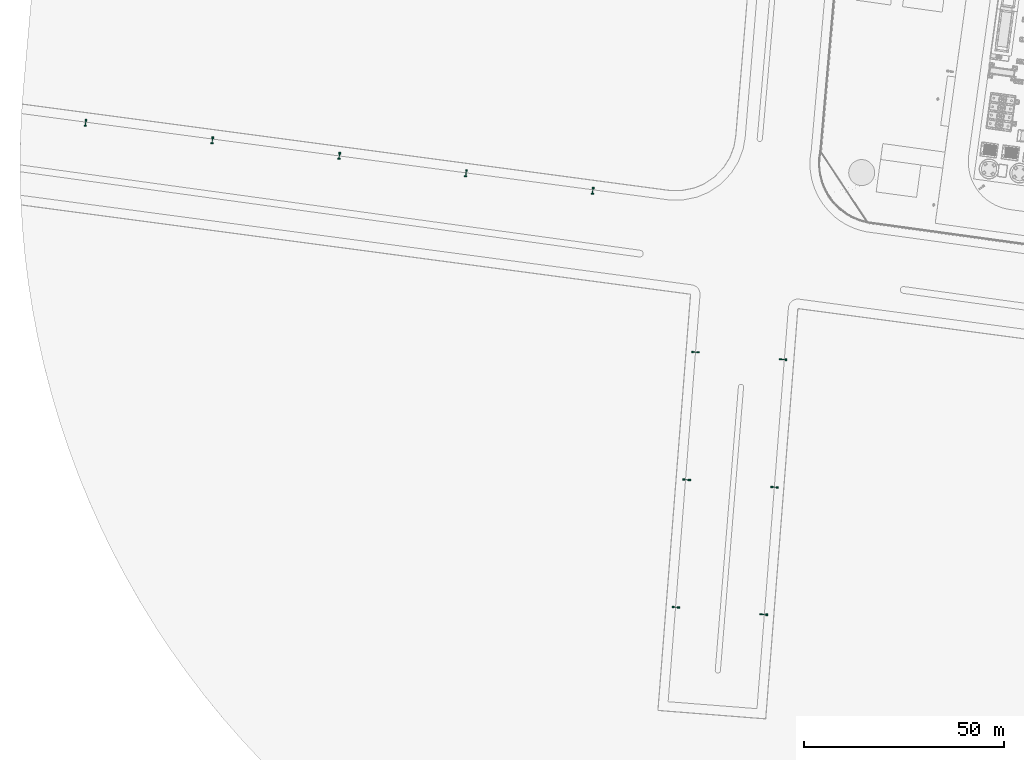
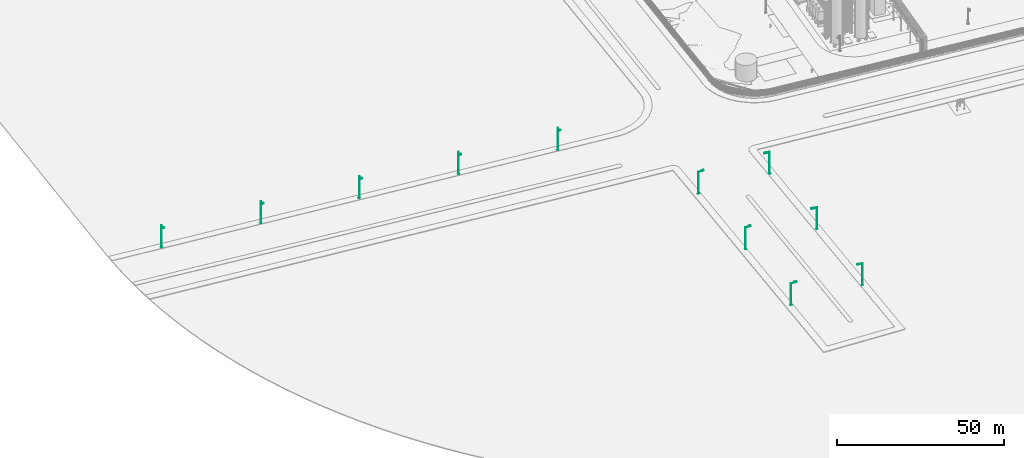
# Not in any storey, part 26 of 75: 11 light fixtures.
"""IFC4 model written with IfcOpenShell, lengths in metres."""

from ifc_helpers import new_model, si_unit, direction, origin, origin_with_axes, place, context, subcontext, project, spatial, triangles, element, save


model = new_model("IFC4")

# Units and contexts
model_context = context("Model", 3, precision=1e-05, world=origin_with_axes(), true_north=direction((0.0, 1.0)))
body_context = subcontext(model_context, "Body", "Model", "MODEL_VIEW")
ifc_project = project(units=[si_unit("AREAUNIT", "SQUARE_METRE"), si_unit("VOLUMEUNIT", "CUBIC_METRE"), si_unit("LENGTHUNIT", "METRE")], contexts=[model_context])

# Site
site_placement = place(None, origin_with_axes())
site = spatial("IfcSite", under=ifc_project, at=site_placement, Name="Parcela industrial Jinhong")

# Light fixtures
light_fixture_1_placement = place(None, origin())
element("IfcLightFixture", 1, at=light_fixture_1_placement, inside=site, Name="Luminaria del entorno · ilustrativa 1", ObjectType="Luminaria del entorno · ilustrativa 1", PredefinedType="USERDEFINED", context=body_context, shape_type="Tessellation", body=[
    triangles([(-19.504452, -79.282823, 0.118432), (-19.504452, -79.282823, 0.318432), (-19.504452, -78.832823, 0.118432), (-19.504452, -78.832823, 0.318432), (-19.054452, -79.282823, 0.118432), (-19.054452, -79.282823, 0.318432), (-19.054452, -78.832823, 0.118432), (-19.054452, -78.832823, 0.318432)], [[2, 4, 1], [5, 2, 1], [1, 4, 3], [3, 5, 1], [2, 8, 4], [6, 2, 5], [6, 8, 2], [4, 8, 3], [7, 5, 3], [3, 8, 7], [7, 6, 5], [8, 6, 7]], closed=True),
    triangles([(-19.339452, -79.117823, 0.318432), (-19.339452, -79.117823, 8.118432), (-19.339452, -78.997823, 0.318432), (-19.339452, -78.997823, 8.118432), (-19.219452, -79.117823, 0.318432), (-19.219452, -79.117823, 8.118432), (-19.219452, -78.997823, 0.318432), (-19.219452, -78.997823, 8.118432)], [[2, 4, 1], [5, 2, 1], [1, 4, 3], [3, 5, 1], [2, 8, 4], [6, 2, 5], [6, 8, 2], [4, 8, 3], [7, 5, 3], [3, 8, 7], [7, 6, 5], [8, 6, 7]], closed=True),
    triangles([(-19.287044, -79.097505, 7.978838), (-20.682127, -78.980271, 8.128838), (-19.280383, -79.017784, 7.978481), (-20.675466, -78.90055, 8.128481), (-19.278521, -79.097862, 8.058382), (-20.673604, -78.980628, 8.208382), (-19.27186, -79.01814, 8.058025), (-20.666943, -78.900906, 8.208025)], [[2, 4, 1], [5, 2, 1], [1, 4, 3], [3, 5, 1], [2, 8, 4], [6, 2, 5], [6, 8, 2], [4, 8, 3], [7, 5, 3], [3, 8, 7], [7, 6, 5], [8, 6, 7]], closed=True),
    triangles([(-20.964535, -79.080589, 8.108432), (-20.964535, -79.080589, 8.228432), (-20.964535, -78.800589, 8.108432), (-20.964535, -78.800589, 8.228432), (-20.384535, -79.080589, 8.108432), (-20.384535, -79.080589, 8.228432), (-20.384535, -78.800589, 8.108432), (-20.384535, -78.800589, 8.228432)], [[2, 4, 1], [5, 2, 1], [1, 4, 3], [3, 5, 1], [2, 8, 4], [6, 2, 5], [6, 8, 2], [4, 8, 3], [7, 5, 3], [3, 8, 7], [7, 6, 5], [8, 6, 7]], closed=True),
])
light_fixture_2_placement = place(None, origin())
element("IfcLightFixture", 2, at=light_fixture_2_placement, inside=site, Name="Luminaria del entorno · ilustrativa 2", ObjectType="Luminaria del entorno · ilustrativa 2", PredefinedType="USERDEFINED", context=body_context, shape_type="Tessellation", body=[
    triangles([(-42.921915, -77.314969, -0.142619), (-42.921915, -77.314969, 0.057381), (-42.921915, -76.864969, -0.142619), (-42.921915, -76.864969, 0.057381), (-42.471915, -77.314969, -0.142619), (-42.471915, -77.314969, 0.057381), (-42.471915, -76.864969, -0.142619), (-42.471915, -76.864969, 0.057381)], [[2, 4, 1], [5, 2, 1], [1, 4, 3], [3, 5, 1], [2, 8, 4], [6, 2, 5], [6, 8, 2], [4, 8, 3], [7, 5, 3], [3, 8, 7], [7, 6, 5], [8, 6, 7]], closed=True),
    triangles([(-42.756915, -77.149969, 0.057381), (-42.756915, -77.149969, 7.857381), (-42.756915, -77.029969, 0.057381), (-42.756915, -77.029969, 7.857381), (-42.636915, -77.149969, 0.057381), (-42.636915, -77.149969, 7.857381), (-42.636915, -77.029969, 0.057381), (-42.636915, -77.029969, 7.857381)], [[2, 4, 1], [5, 2, 1], [1, 4, 3], [3, 5, 1], [2, 8, 4], [6, 2, 5], [6, 8, 2], [4, 8, 3], [7, 5, 3], [3, 8, 7], [7, 6, 5], [8, 6, 7]], closed=True),
    triangles([(-42.704506, -77.129651, 7.796975), (-41.309423, -77.246885, 7.946975), (-42.697845, -77.04993, 7.797332), (-41.302763, -77.167164, 7.947332), (-42.695984, -77.130008, 7.717431), (-41.300901, -77.247241, 7.867431), (-42.689323, -77.050286, 7.717788), (-41.29424, -77.16752, 7.867788)], [[2, 4, 1], [5, 2, 1], [1, 4, 3], [3, 5, 1], [2, 8, 4], [6, 2, 5], [6, 8, 2], [4, 8, 3], [7, 5, 3], [3, 8, 7], [7, 6, 5], [8, 6, 7]], closed=True),
    triangles([(-41.591832, -77.347203, 7.847381), (-41.591832, -77.347203, 7.967381), (-41.591832, -77.067203, 7.847381), (-41.591832, -77.067203, 7.967381), (-41.011832, -77.347203, 7.847381), (-41.011832, -77.347203, 7.967381), (-41.011832, -77.067203, 7.847381), (-41.011832, -77.067203, 7.967381)], [[2, 4, 1], [5, 2, 1], [1, 4, 3], [3, 5, 1], [2, 8, 4], [6, 2, 5], [6, 8, 2], [4, 8, 3], [7, 5, 3], [3, 8, 7], [7, 6, 5], [8, 6, 7]], closed=True),
])
light_fixture_3_placement = place(None, origin())
element("IfcLightFixture", 3, at=light_fixture_3_placement, inside=site, Name="Luminaria del entorno · ilustrativa 3", ObjectType="Luminaria del entorno · ilustrativa 3", PredefinedType="USERDEFINED", context=body_context, shape_type="Tessellation", body=[
    triangles([(-16.824821, -47.395214, 0.233988), (-16.824821, -47.395214, 0.433988), (-16.824821, -46.945214, 0.233988), (-16.824821, -46.945214, 0.433988), (-16.374821, -47.395214, 0.233988), (-16.374821, -47.395214, 0.433988), (-16.374821, -46.945214, 0.233988), (-16.374821, -46.945214, 0.433988)], [[2, 4, 1], [5, 2, 1], [1, 4, 3], [3, 5, 1], [2, 8, 4], [6, 2, 5], [6, 8, 2], [4, 8, 3], [7, 5, 3], [3, 8, 7], [7, 6, 5], [8, 6, 7]], closed=True),
    triangles([(-16.659821, -47.230214, 0.433988), (-16.659821, -47.230214, 8.233988), (-16.659821, -47.110214, 0.433988), (-16.659821, -47.110214, 8.233988), (-16.539821, -47.230214, 0.433988), (-16.539821, -47.230214, 8.233988), (-16.539821, -47.110214, 0.433988), (-16.539821, -47.110214, 8.233988)], [[2, 4, 1], [5, 2, 1], [1, 4, 3], [3, 5, 1], [2, 8, 4], [6, 2, 5], [6, 8, 2], [4, 8, 3], [7, 5, 3], [3, 8, 7], [7, 6, 5], [8, 6, 7]], closed=True),
    triangles([(-16.607413, -47.209897, 8.094395), (-18.002496, -47.092663, 8.244395), (-16.600752, -47.130175, 8.094038), (-17.995835, -47.012941, 8.244038), (-16.59889, -47.210253, 8.173939), (-17.993973, -47.093019, 8.323939), (-16.592229, -47.130532, 8.173582), (-17.987312, -47.013298, 8.323582)], [[2, 4, 1], [5, 2, 1], [1, 4, 3], [3, 5, 1], [2, 8, 4], [6, 2, 5], [6, 8, 2], [4, 8, 3], [7, 5, 3], [3, 8, 7], [7, 6, 5], [8, 6, 7]], closed=True),
    triangles([(-18.284904, -47.19298, 8.223988), (-18.284904, -47.19298, 8.343988), (-18.284904, -46.91298, 8.223988), (-18.284904, -46.91298, 8.343988), (-17.704904, -47.19298, 8.223988), (-17.704904, -47.19298, 8.343988), (-17.704904, -46.91298, 8.223988), (-17.704904, -46.91298, 8.343988)], [[2, 4, 1], [5, 2, 1], [1, 4, 3], [3, 5, 1], [2, 8, 4], [6, 2, 5], [6, 8, 2], [4, 8, 3], [7, 5, 3], [3, 8, 7], [7, 6, 5], [8, 6, 7]], closed=True),
])
light_fixture_4_placement = place(None, origin())
element("IfcLightFixture", 4, at=light_fixture_4_placement, inside=site, Name="Luminaria del entorno · ilustrativa 4", ObjectType="Luminaria del entorno · ilustrativa 4", PredefinedType="USERDEFINED", context=body_context, shape_type="Tessellation", body=[
    triangles([(-40.242284, -45.42736, -0.027062), (-40.242284, -45.42736, 0.172938), (-40.242284, -44.97736, -0.027062), (-40.242284, -44.97736, 0.172938), (-39.792284, -45.42736, -0.027062), (-39.792284, -45.42736, 0.172938), (-39.792284, -44.97736, -0.027062), (-39.792284, -44.97736, 0.172938)], [[2, 4, 1], [5, 2, 1], [1, 4, 3], [3, 5, 1], [2, 8, 4], [6, 2, 5], [6, 8, 2], [4, 8, 3], [7, 5, 3], [3, 8, 7], [7, 6, 5], [8, 6, 7]], closed=True),
    triangles([(-40.077284, -45.26236, 0.172938), (-40.077284, -45.26236, 7.972938), (-40.077284, -45.14236, 0.172938), (-40.077284, -45.14236, 7.972938), (-39.957284, -45.26236, 0.172938), (-39.957284, -45.26236, 7.972938), (-39.957284, -45.14236, 0.172938), (-39.957284, -45.14236, 7.972938)], [[2, 4, 1], [5, 2, 1], [1, 4, 3], [3, 5, 1], [2, 8, 4], [6, 2, 5], [6, 8, 2], [4, 8, 3], [7, 5, 3], [3, 8, 7], [7, 6, 5], [8, 6, 7]], closed=True),
    triangles([(-40.024875, -45.242043, 7.912532), (-38.629793, -45.359276, 8.062532), (-40.018214, -45.162321, 7.912888), (-38.623132, -45.279555, 8.062888), (-40.016353, -45.242399, 7.832988), (-38.62127, -45.359633, 7.982988), (-40.009692, -45.162678, 7.833345), (-38.614609, -45.279912, 7.983345)], [[2, 4, 1], [5, 2, 1], [1, 4, 3], [3, 5, 1], [2, 8, 4], [6, 2, 5], [6, 8, 2], [4, 8, 3], [7, 5, 3], [3, 8, 7], [7, 6, 5], [8, 6, 7]], closed=True),
    triangles([(-38.912201, -45.459594, 7.962938), (-38.912201, -45.459594, 8.082938), (-38.912201, -45.179594, 7.962938), (-38.912201, -45.179594, 8.082938), (-38.332201, -45.459594, 7.962938), (-38.332201, -45.459594, 8.082938), (-38.332201, -45.179594, 7.962938), (-38.332201, -45.179594, 8.082938)], [[2, 4, 1], [5, 2, 1], [1, 4, 3], [3, 5, 1], [2, 8, 4], [6, 2, 5], [6, 8, 2], [4, 8, 3], [7, 5, 3], [3, 8, 7], [7, 6, 5], [8, 6, 7]], closed=True),
])
light_fixture_5_placement = place(None, origin())
element("IfcLightFixture", 5, at=light_fixture_5_placement, inside=site, Name="Luminaria del entorno · ilustrativa 5", ObjectType="Luminaria del entorno · ilustrativa 5", PredefinedType="USERDEFINED", context=body_context, shape_type="Tessellation", body=[
    triangles([(-14.643434, -15.465736, 0.343991), (-14.643434, -15.465736, 0.543991), (-14.643434, -15.015736, 0.343991), (-14.643434, -15.015736, 0.543991), (-14.193434, -15.465736, 0.343991), (-14.193434, -15.465736, 0.543991), (-14.193434, -15.015736, 0.343991), (-14.193434, -15.015736, 0.543991)], [[2, 4, 1], [5, 2, 1], [1, 4, 3], [3, 5, 1], [2, 8, 4], [6, 2, 5], [6, 8, 2], [4, 8, 3], [7, 5, 3], [3, 8, 7], [7, 6, 5], [8, 6, 7]], closed=True),
    triangles([(-14.478434, -15.300736, 0.543991), (-14.478434, -15.300736, 8.343991), (-14.478434, -15.180736, 0.543991), (-14.478434, -15.180736, 8.343991), (-14.358434, -15.300736, 0.543991), (-14.358434, -15.300736, 8.343991), (-14.358434, -15.180736, 0.543991), (-14.358434, -15.180736, 8.343991)], [[2, 4, 1], [5, 2, 1], [1, 4, 3], [3, 5, 1], [2, 8, 4], [6, 2, 5], [6, 8, 2], [4, 8, 3], [7, 5, 3], [3, 8, 7], [7, 6, 5], [8, 6, 7]], closed=True),
    triangles([(-14.426026, -15.280419, 8.204397), (-15.821109, -15.163185, 8.354397), (-14.419365, -15.200697, 8.204041), (-15.814448, -15.083464, 8.354041), (-14.417503, -15.280775, 8.283941), (-15.812586, -15.163541, 8.433941), (-14.410842, -15.201054, 8.283585), (-15.805925, -15.08382, 8.433585)], [[2, 4, 1], [5, 2, 1], [1, 4, 3], [3, 5, 1], [2, 8, 4], [6, 2, 5], [6, 8, 2], [4, 8, 3], [7, 5, 3], [3, 8, 7], [7, 6, 5], [8, 6, 7]], closed=True),
    triangles([(-16.103517, -15.263503, 8.333991), (-16.103517, -15.263503, 8.453991), (-16.103517, -14.983503, 8.333991), (-16.103517, -14.983503, 8.453991), (-15.523517, -15.263503, 8.333991), (-15.523517, -15.263503, 8.453991), (-15.523517, -14.983503, 8.333991), (-15.523517, -14.983503, 8.453991)], [[2, 4, 1], [5, 2, 1], [1, 4, 3], [3, 5, 1], [2, 8, 4], [6, 2, 5], [6, 8, 2], [4, 8, 3], [7, 5, 3], [3, 8, 7], [7, 6, 5], [8, 6, 7]], closed=True),
])
light_fixture_6_placement = place(None, origin())
element("IfcLightFixture", 6, at=light_fixture_6_placement, inside=site, Name="Luminaria del entorno · ilustrativa 6", ObjectType="Luminaria del entorno · ilustrativa 6", PredefinedType="USERDEFINED", context=body_context, shape_type="Tessellation", body=[
    triangles([(-38.060897, -13.497882, 0.082941), (-38.060897, -13.497882, 0.282941), (-38.060897, -13.047882, 0.082941), (-38.060897, -13.047882, 0.282941), (-37.610897, -13.497882, 0.082941), (-37.610897, -13.497882, 0.282941), (-37.610897, -13.047882, 0.082941), (-37.610897, -13.047882, 0.282941)], [[2, 4, 1], [5, 2, 1], [1, 4, 3], [3, 5, 1], [2, 8, 4], [6, 2, 5], [6, 8, 2], [4, 8, 3], [7, 5, 3], [3, 8, 7], [7, 6, 5], [8, 6, 7]], closed=True),
    triangles([(-37.895897, -13.332882, 0.282941), (-37.895897, -13.332882, 8.082941), (-37.895897, -13.212882, 0.282941), (-37.895897, -13.212882, 8.082941), (-37.775897, -13.332882, 0.282941), (-37.775897, -13.332882, 8.082941), (-37.775897, -13.212882, 0.282941), (-37.775897, -13.212882, 8.082941)], [[2, 4, 1], [5, 2, 1], [1, 4, 3], [3, 5, 1], [2, 8, 4], [6, 2, 5], [6, 8, 2], [4, 8, 3], [7, 5, 3], [3, 8, 7], [7, 6, 5], [8, 6, 7]], closed=True),
    triangles([(-37.843488, -13.312565, 8.022535), (-36.448405, -13.429799, 8.172535), (-37.836827, -13.232843, 8.022891), (-36.441744, -13.350077, 8.172891), (-37.834966, -13.312921, 7.942991), (-36.439883, -13.430155, 8.092991), (-37.828305, -13.2332, 7.943347), (-36.433222, -13.350434, 8.093347)], [[2, 4, 1], [5, 2, 1], [1, 4, 3], [3, 5, 1], [2, 8, 4], [6, 2, 5], [6, 8, 2], [4, 8, 3], [7, 5, 3], [3, 8, 7], [7, 6, 5], [8, 6, 7]], closed=True),
    triangles([(-36.730814, -13.530116, 8.072941), (-36.730814, -13.530116, 8.192941), (-36.730814, -13.250116, 8.072941), (-36.730814, -13.250116, 8.192941), (-36.150814, -13.530116, 8.072941), (-36.150814, -13.530116, 8.192941), (-36.150814, -13.250116, 8.072941), (-36.150814, -13.250116, 8.192941)], [[2, 4, 1], [5, 2, 1], [1, 4, 3], [3, 5, 1], [2, 8, 4], [6, 2, 5], [6, 8, 2], [4, 8, 3], [7, 5, 3], [3, 8, 7], [7, 6, 5], [8, 6, 7]], closed=True),
])
light_fixture_7_placement = place(None, origin())
element("IfcLightFixture", 7, at=light_fixture_7_placement, inside=site, Name="Luminaria del entorno · ilustrativa 10", ObjectType="Luminaria del entorno · ilustrativa 10", PredefinedType="USERDEFINED", context=body_context, shape_type="Tessellation", body=[
    triangles([(-189.798282, 44.488614, -1.487877), (-189.798282, 44.488614, -1.287877), (-189.798282, 44.938614, -1.487877), (-189.798282, 44.938614, -1.287877), (-189.348282, 44.488614, -1.487877), (-189.348282, 44.488614, -1.287877), (-189.348282, 44.938614, -1.487877), (-189.348282, 44.938614, -1.287877)], [[2, 4, 1], [5, 2, 1], [1, 4, 3], [3, 5, 1], [2, 8, 4], [6, 2, 5], [6, 8, 2], [4, 8, 3], [7, 5, 3], [3, 8, 7], [7, 6, 5], [8, 6, 7]], closed=True),
    triangles([(-189.633282, 44.653614, -1.287877), (-189.633282, 44.653614, 6.512123), (-189.633282, 44.773614, -1.287877), (-189.633282, 44.773614, 6.512123), (-189.513282, 44.653614, -1.287877), (-189.513282, 44.653614, 6.512123), (-189.513282, 44.773614, -1.287877), (-189.513282, 44.773614, 6.512123)], [[2, 4, 1], [5, 2, 1], [1, 4, 3], [3, 5, 1], [2, 8, 4], [6, 2, 5], [6, 8, 2], [4, 8, 3], [7, 5, 3], [3, 8, 7], [7, 6, 5], [8, 6, 7]], closed=True),
    triangles([(-189.538143, 44.704091, 6.368826), (-189.729178, 43.317186, 6.518826), (-189.616943, 44.715744, 6.376218), (-189.807978, 43.328839, 6.526218), (-189.52962, 44.711483, 6.448027), (-189.720655, 43.324578, 6.598027), (-189.608421, 44.723136, 6.455419), (-189.799456, 43.336231, 6.605419)], [[2, 4, 1], [5, 2, 1], [1, 4, 3], [3, 5, 1], [2, 8, 4], [6, 2, 5], [6, 8, 2], [4, 8, 3], [7, 5, 3], [3, 8, 7], [7, 6, 5], [8, 6, 7]], closed=True),
    triangles([(-190.054317, 43.186709, 6.502123), (-190.054317, 43.186709, 6.622123), (-190.054317, 43.466709, 6.502123), (-190.054317, 43.466709, 6.622123), (-189.474317, 43.186709, 6.502123), (-189.474317, 43.186709, 6.622123), (-189.474317, 43.466709, 6.502123), (-189.474317, 43.466709, 6.622123)], [[2, 4, 1], [5, 2, 1], [1, 4, 3], [3, 5, 1], [2, 8, 4], [6, 2, 5], [6, 8, 2], [4, 8, 3], [7, 5, 3], [3, 8, 7], [7, 6, 5], [8, 6, 7]], closed=True),
])
light_fixture_8_placement = place(None, origin())
element("IfcLightFixture", 8, at=light_fixture_8_placement, inside=site, Name="Luminaria del entorno · ilustrativa 11", ObjectType="Luminaria del entorno · ilustrativa 11", PredefinedType="USERDEFINED", context=body_context, shape_type="Tessellation", body=[
    triangles([(-158.097595, 40.1221, -1.139031), (-158.097595, 40.1221, -0.939031), (-158.097595, 40.5721, -1.139031), (-158.097595, 40.5721, -0.939031), (-157.647595, 40.1221, -1.139031), (-157.647595, 40.1221, -0.939031), (-157.647595, 40.5721, -1.139031), (-157.647595, 40.5721, -0.939031)], [[2, 4, 1], [5, 2, 1], [1, 4, 3], [3, 5, 1], [2, 8, 4], [6, 2, 5], [6, 8, 2], [4, 8, 3], [7, 5, 3], [3, 8, 7], [7, 6, 5], [8, 6, 7]], closed=True),
    triangles([(-157.932595, 40.2871, -0.939031), (-157.932595, 40.2871, 6.860969), (-157.932595, 40.4071, -0.939031), (-157.932595, 40.4071, 6.860969), (-157.812595, 40.2871, -0.939031), (-157.812595, 40.2871, 6.860969), (-157.812595, 40.4071, -0.939031), (-157.812595, 40.4071, 6.860969)], [[2, 4, 1], [5, 2, 1], [1, 4, 3], [3, 5, 1], [2, 8, 4], [6, 2, 5], [6, 8, 2], [4, 8, 3], [7, 5, 3], [3, 8, 7], [7, 6, 5], [8, 6, 7]], closed=True),
    triangles([(-157.837456, 40.337577, 6.717672), (-158.028491, 38.950672, 6.867672), (-157.916256, 40.34923, 6.725064), (-158.107291, 38.962325, 6.875064), (-157.828933, 40.344969, 6.796873), (-158.019968, 38.958064, 6.946873), (-157.907734, 40.356622, 6.804265), (-158.098769, 38.969717, 6.954265)], [[2, 4, 1], [5, 2, 1], [1, 4, 3], [3, 5, 1], [2, 8, 4], [6, 2, 5], [6, 8, 2], [4, 8, 3], [7, 5, 3], [3, 8, 7], [7, 6, 5], [8, 6, 7]], closed=True),
    triangles([(-158.35363, 38.820195, 6.850969), (-158.35363, 38.820195, 6.970969), (-158.35363, 39.100195, 6.850969), (-158.35363, 39.100195, 6.970969), (-157.77363, 38.820195, 6.850969), (-157.77363, 38.820195, 6.970969), (-157.77363, 39.100195, 6.850969), (-157.77363, 39.100195, 6.970969)], [[2, 4, 1], [5, 2, 1], [1, 4, 3], [3, 5, 1], [2, 8, 4], [6, 2, 5], [6, 8, 2], [4, 8, 3], [7, 5, 3], [3, 8, 7], [7, 6, 5], [8, 6, 7]], closed=True),
])
light_fixture_9_placement = place(None, origin())
element("IfcLightFixture", 9, at=light_fixture_9_placement, inside=site, Name="Luminaria del entorno · ilustrativa 12", ObjectType="Luminaria del entorno · ilustrativa 12", PredefinedType="USERDEFINED", context=body_context, shape_type="Tessellation", body=[
    triangles([(-126.328681, 36.250909, -0.788088), (-126.328681, 36.250909, -0.588088), (-126.328681, 36.700909, -0.788088), (-126.328681, 36.700909, -0.588088), (-125.878681, 36.250909, -0.788088), (-125.878681, 36.250909, -0.588088), (-125.878681, 36.700909, -0.788088), (-125.878681, 36.700909, -0.588088)], [[2, 4, 1], [5, 2, 1], [1, 4, 3], [3, 5, 1], [2, 8, 4], [6, 2, 5], [6, 8, 2], [4, 8, 3], [7, 5, 3], [3, 8, 7], [7, 6, 5], [8, 6, 7]], closed=True),
    triangles([(-126.163681, 36.415909, -0.588088), (-126.163681, 36.415909, 7.211912), (-126.163681, 36.535909, -0.588088), (-126.163681, 36.535909, 7.211912), (-126.043681, 36.415909, -0.588088), (-126.043681, 36.415909, 7.211912), (-126.043681, 36.535909, -0.588088), (-126.043681, 36.535909, 7.211912)], [[2, 4, 1], [5, 2, 1], [1, 4, 3], [3, 5, 1], [2, 8, 4], [6, 2, 5], [6, 8, 2], [4, 8, 3], [7, 5, 3], [3, 8, 7], [7, 6, 5], [8, 6, 7]], closed=True),
    triangles([(-126.068542, 36.466386, 7.068616), (-126.259577, 35.079481, 7.218616), (-126.147343, 36.47804, 7.076008), (-126.338378, 35.091135, 7.226008), (-126.060019, 36.473778, 7.147816), (-126.251054, 35.086873, 7.297816), (-126.13882, 36.485432, 7.155208), (-126.329855, 35.098527, 7.305208)], [[2, 4, 1], [5, 2, 1], [1, 4, 3], [3, 5, 1], [2, 8, 4], [6, 2, 5], [6, 8, 2], [4, 8, 3], [7, 5, 3], [3, 8, 7], [7, 6, 5], [8, 6, 7]], closed=True),
    triangles([(-126.584716, 34.949004, 7.201912), (-126.584716, 34.949004, 7.321912), (-126.584716, 35.229004, 7.201912), (-126.584716, 35.229004, 7.321912), (-126.004716, 34.949004, 7.201912), (-126.004716, 34.949004, 7.321912), (-126.004716, 35.229004, 7.201912), (-126.004716, 35.229004, 7.321912)], [[2, 4, 1], [5, 2, 1], [1, 4, 3], [3, 5, 1], [2, 8, 4], [6, 2, 5], [6, 8, 2], [4, 8, 3], [7, 5, 3], [3, 8, 7], [7, 6, 5], [8, 6, 7]], closed=True),
])
light_fixture_10_placement = place(None, origin())
element("IfcLightFixture", 10, at=light_fixture_10_placement, inside=site, Name="Luminaria del entorno · ilustrativa 13", ObjectType="Luminaria del entorno · ilustrativa 13", PredefinedType="USERDEFINED", context=body_context, shape_type="Tessellation", body=[
    triangles([(-94.627994, 31.884395, -0.439242), (-94.627994, 31.884395, -0.239242), (-94.627994, 32.334395, -0.439242), (-94.627994, 32.334395, -0.239242), (-94.177994, 31.884395, -0.439242), (-94.177994, 31.884395, -0.239242), (-94.177994, 32.334395, -0.439242), (-94.177994, 32.334395, -0.239242)], [[2, 4, 1], [5, 2, 1], [1, 4, 3], [3, 5, 1], [2, 8, 4], [6, 2, 5], [6, 8, 2], [4, 8, 3], [7, 5, 3], [3, 8, 7], [7, 6, 5], [8, 6, 7]], closed=True),
    triangles([(-94.462994, 32.049395, -0.239242), (-94.462994, 32.049395, 7.560758), (-94.462994, 32.169395, -0.239242), (-94.462994, 32.169395, 7.560758), (-94.342994, 32.049395, -0.239242), (-94.342994, 32.049395, 7.560758), (-94.342994, 32.169395, -0.239242), (-94.342994, 32.169395, 7.560758)], [[2, 4, 1], [5, 2, 1], [1, 4, 3], [3, 5, 1], [2, 8, 4], [6, 2, 5], [6, 8, 2], [4, 8, 3], [7, 5, 3], [3, 8, 7], [7, 6, 5], [8, 6, 7]], closed=True),
    triangles([(-94.367855, 32.099872, 7.417461), (-94.55889, 30.712967, 7.567461), (-94.446656, 32.111526, 7.424853), (-94.637691, 30.724621, 7.574853), (-94.359332, 32.107264, 7.496662), (-94.550367, 30.720359, 7.646662), (-94.438133, 32.118918, 7.504054), (-94.629168, 30.732013, 7.654054)], [[2, 4, 1], [5, 2, 1], [1, 4, 3], [3, 5, 1], [2, 8, 4], [6, 2, 5], [6, 8, 2], [4, 8, 3], [7, 5, 3], [3, 8, 7], [7, 6, 5], [8, 6, 7]], closed=True),
    triangles([(-94.884029, 30.58249, 7.550758), (-94.884029, 30.58249, 7.670758), (-94.884029, 30.86249, 7.550758), (-94.884029, 30.86249, 7.670758), (-94.304029, 30.58249, 7.550758), (-94.304029, 30.58249, 7.670758), (-94.304029, 30.86249, 7.550758), (-94.304029, 30.86249, 7.670758)], [[2, 4, 1], [5, 2, 1], [1, 4, 3], [3, 5, 1], [2, 8, 4], [6, 2, 5], [6, 8, 2], [4, 8, 3], [7, 5, 3], [3, 8, 7], [7, 6, 5], [8, 6, 7]], closed=True),
])
light_fixture_11_placement = place(None, origin())
element("IfcLightFixture", 11, at=light_fixture_11_placement, inside=site, Name="Luminaria del entorno · ilustrativa 14", ObjectType="Luminaria del entorno · ilustrativa 14", PredefinedType="USERDEFINED", context=body_context, shape_type="Tessellation", body=[
    triangles([(-62.927307, 27.517881, -0.090397), (-62.927307, 27.517881, 0.109603), (-62.927307, 27.967881, -0.090397), (-62.927307, 27.967881, 0.109603), (-62.477307, 27.517881, -0.090397), (-62.477307, 27.517881, 0.109603), (-62.477307, 27.967881, -0.090397), (-62.477307, 27.967881, 0.109603)], [[2, 4, 1], [5, 2, 1], [1, 4, 3], [3, 5, 1], [2, 8, 4], [6, 2, 5], [6, 8, 2], [4, 8, 3], [7, 5, 3], [3, 8, 7], [7, 6, 5], [8, 6, 7]], closed=True),
    triangles([(-62.762307, 27.682881, 0.109603), (-62.762307, 27.682881, 7.909603), (-62.762307, 27.802881, 0.109603), (-62.762307, 27.802881, 7.909603), (-62.642307, 27.682881, 0.109603), (-62.642307, 27.682881, 7.909603), (-62.642307, 27.802881, 0.109603), (-62.642307, 27.802881, 7.909603)], [[2, 4, 1], [5, 2, 1], [1, 4, 3], [3, 5, 1], [2, 8, 4], [6, 2, 5], [6, 8, 2], [4, 8, 3], [7, 5, 3], [3, 8, 7], [7, 6, 5], [8, 6, 7]], closed=True),
    triangles([(-62.667168, 27.733358, 7.766307), (-62.858203, 26.346453, 7.916307), (-62.745969, 27.745012, 7.773699), (-62.937004, 26.358107, 7.923699), (-62.658645, 27.74075, 7.845508), (-62.84968, 26.353845, 7.995508), (-62.737446, 27.752404, 7.8529), (-62.928481, 26.365499, 8.0029)], [[2, 4, 1], [5, 2, 1], [1, 4, 3], [3, 5, 1], [2, 8, 4], [6, 2, 5], [6, 8, 2], [4, 8, 3], [7, 5, 3], [3, 8, 7], [7, 6, 5], [8, 6, 7]], closed=True),
    triangles([(-63.183342, 26.215976, 7.899603), (-63.183342, 26.215976, 8.019603), (-63.183342, 26.495976, 7.899603), (-63.183342, 26.495976, 8.019603), (-62.603342, 26.215976, 7.899603), (-62.603342, 26.215976, 8.019603), (-62.603342, 26.495976, 7.899603), (-62.603342, 26.495976, 8.019603)], [[2, 4, 1], [5, 2, 1], [1, 4, 3], [3, 5, 1], [2, 8, 4], [6, 2, 5], [6, 8, 2], [4, 8, 3], [7, 5, 3], [3, 8, 7], [7, 6, 5], [8, 6, 7]], closed=True),
])

save(model, "model.ifc")
